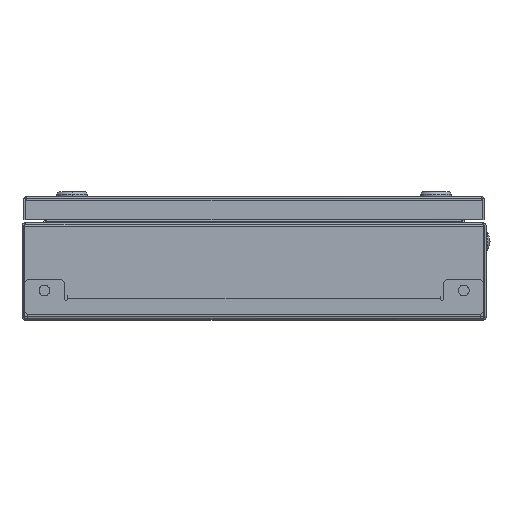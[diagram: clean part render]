
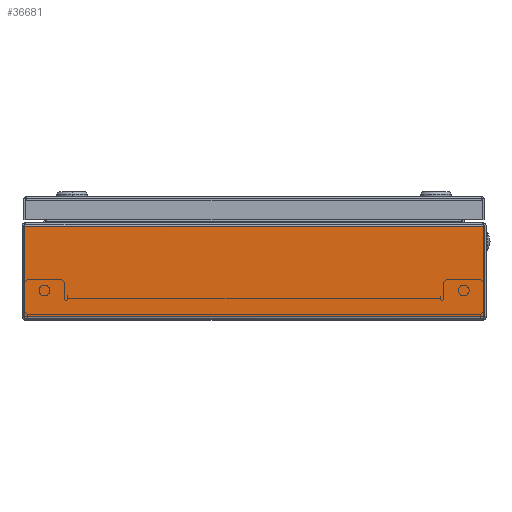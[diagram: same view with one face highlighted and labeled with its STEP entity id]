
A CAD part, left-side view. The second image highlights one B-rep face of the part: STEP entity #36681.
In plain terms, the highlighted planar face has unit normal (-1, 0, 0).
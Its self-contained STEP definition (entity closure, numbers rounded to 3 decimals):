
#3515 = ORIENTED_EDGE ( 'NONE', *, *, #37900, .T. ) ;
#5493 = CARTESIAN_POINT ( 'NONE',  ( -300., -148.6, 2.4 ) ) ;
#8629 = ORIENTED_EDGE ( 'NONE', *, *, #28648, .F. ) ;
#11867 = DIRECTION ( 'NONE',  ( 0., 1., 0. ) ) ;
#12411 = DIRECTION ( 'NONE',  ( 1., 0., 0. ) ) ;
#21133 = CARTESIAN_POINT ( 'NONE',  ( -300., 148.6, 60.6 ) ) ;
#23535 = VECTOR ( 'NONE', #39981, 1000. ) ;
#28486 = CARTESIAN_POINT ( 'NONE',  ( -300., 148.6, 2.4 ) ) ;
#28611 = EDGE_CURVE ( 'NONE', #101059, #100341, #111026, .T. ) ;
#28648 = EDGE_CURVE ( 'NONE', #108552, #99082, #38150, .T. ) ;
#34409 = CARTESIAN_POINT ( 'NONE',  ( -300., -148.6, 2.4 ) ) ;
#36681 = ADVANCED_FACE ( 'NONE', ( #61457 ), #97990, .F. ) ;
#37900 = EDGE_CURVE ( 'NONE', #100341, #99082, #84394, .T. ) ;
#38150 = LINE ( 'NONE', #124179, #23535 ) ;
#39981 = DIRECTION ( 'NONE',  ( 0., 0., 1. ) ) ;
#41381 = DIRECTION ( 'NONE',  ( 0., 0., -1. ) ) ;
#46272 = ORIENTED_EDGE ( 'NONE', *, *, #72188, .F. ) ;
#49246 = VECTOR ( 'NONE', #11867, 1000. ) ;
#52536 = EDGE_LOOP ( 'NONE', ( #113931, #3515, #8629, #46272 ) ) ;
#61457 = FACE_OUTER_BOUND ( 'NONE', #52536, .T. ) ;
#61763 = VECTOR ( 'NONE', #84126, 1000. ) ;
#62167 = VECTOR ( 'NONE', #71839, 1000. ) ;
#71839 = DIRECTION ( 'NONE',  ( 0., 1., 0. ) ) ;
#72188 = EDGE_CURVE ( 'NONE', #101059, #108552, #88732, .T. ) ;
#84126 = DIRECTION ( 'NONE',  ( 0., 0., 1. ) ) ;
#84394 = LINE ( 'NONE', #122595, #62167 ) ;
#88013 = CARTESIAN_POINT ( 'NONE',  ( -300., -3150., 60.6 ) ) ;
#88732 = LINE ( 'NONE', #109245, #49246 ) ;
#91011 = AXIS2_PLACEMENT_3D ( 'NONE', #88013, #12411, #41381 ) ;
#97990 = PLANE ( 'NONE',  #91011 ) ;
#99082 = VERTEX_POINT ( 'NONE', #21133 ) ;
#100341 = VERTEX_POINT ( 'NONE', #117008 ) ;
#101059 = VERTEX_POINT ( 'NONE', #5493 ) ;
#108552 = VERTEX_POINT ( 'NONE', #28486 ) ;
#109245 = CARTESIAN_POINT ( 'NONE',  ( -300., -3150., 2.4 ) ) ;
#111026 = LINE ( 'NONE', #34409, #61763 ) ;
#113931 = ORIENTED_EDGE ( 'NONE', *, *, #28611, .T. ) ;
#117008 = CARTESIAN_POINT ( 'NONE',  ( -300., -148.6, 60.6 ) ) ;
#122595 = CARTESIAN_POINT ( 'NONE',  ( -300., -3150., 60.6 ) ) ;
#124179 = CARTESIAN_POINT ( 'NONE',  ( -300., 148.6, 2.4 ) ) ;
